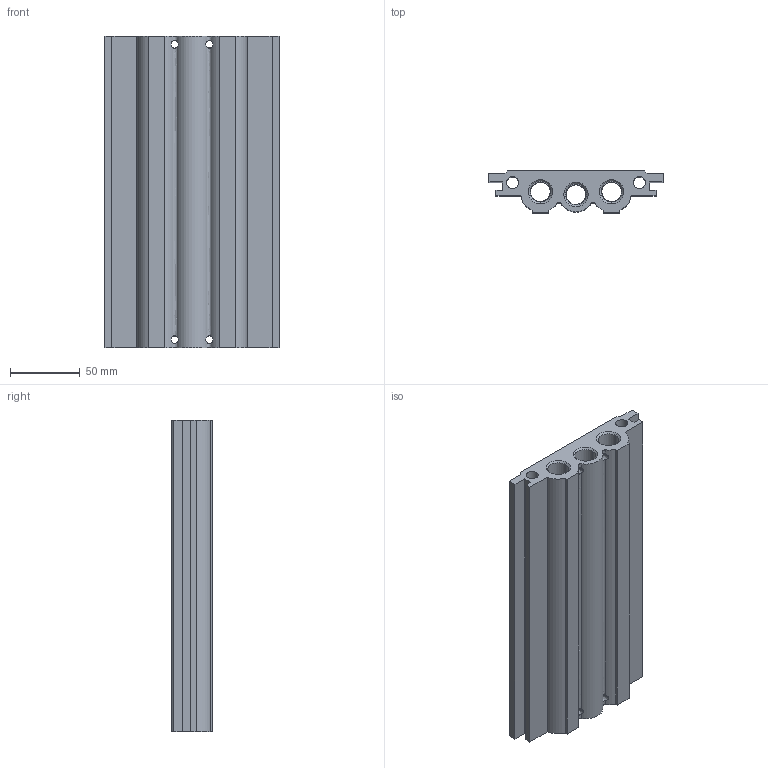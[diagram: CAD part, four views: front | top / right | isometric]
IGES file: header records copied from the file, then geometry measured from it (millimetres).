
Global section: file name: No Iges File Name specified; native system: AutoDesk Inventor R11.0; preprocessor: AutoDesk Inventor Iges Exporter R11.0; author: No Author specified; organization: No Organization specified; date: 20061201.115345; units: millimetre
Bounding box: 125 x 30 x 224 mm (x, y, z)
Volume: 460819.3 mm3; surface area: 129590.3 mm2
Topology: 1 solids, 1 shells, 287 faces, 753 edges, 498 vertices
Faces by surface type: bspline 226, revolution 28, plane 28, cylinder 5
